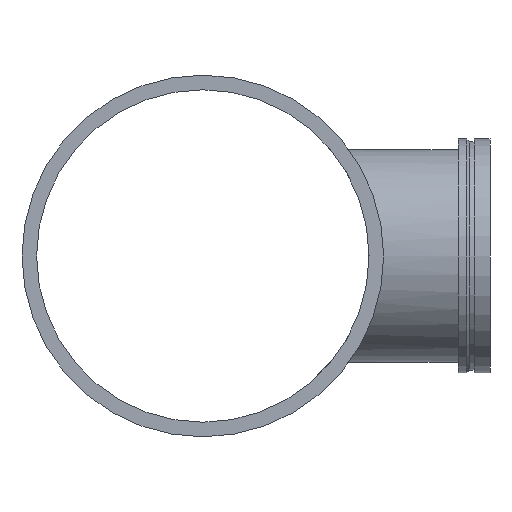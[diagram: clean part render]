
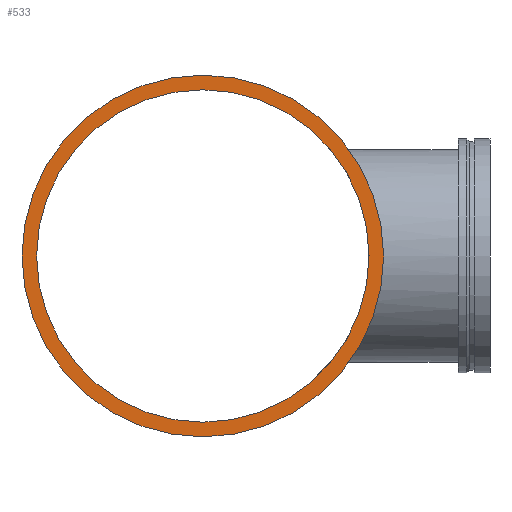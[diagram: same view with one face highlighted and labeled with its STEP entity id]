
A CAD part, left-side view. The second image highlights one B-rep face of the part: STEP entity #533.
In plain terms, the highlighted planar face has unit normal (-1, 0, 0).
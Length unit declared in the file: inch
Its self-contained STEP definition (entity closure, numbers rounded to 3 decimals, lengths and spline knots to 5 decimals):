
#58=FACE_BOUND('',#128,.T.);
#67=PLANE('',#626);
#92=FACE_OUTER_BOUND('',#127,.T.);
#127=EDGE_LOOP('',(#465,#466));
#128=EDGE_LOOP('',(#467,#468));
#151=CIRCLE('',#587,17.);
#152=CIRCLE('',#588,17.);
#175=CIRCLE('',#624,15.625);
#176=CIRCLE('',#625,15.625);
#239=VERTEX_POINT('',#1137);
#240=VERTEX_POINT('',#1139);
#263=VERTEX_POINT('',#1206);
#264=VERTEX_POINT('',#1208);
#299=EDGE_CURVE('',#239,#240,#151,.T.);
#300=EDGE_CURVE('',#240,#239,#152,.T.);
#331=EDGE_CURVE('',#264,#263,#175,.T.);
#332=EDGE_CURVE('',#263,#264,#176,.T.);
#465=ORIENTED_EDGE('',*,*,#300,.F.);
#466=ORIENTED_EDGE('',*,*,#299,.F.);
#467=ORIENTED_EDGE('',*,*,#331,.T.);
#468=ORIENTED_EDGE('',*,*,#332,.T.);
#533=ADVANCED_FACE('',(#92,#58),#67,.T.);
#587=AXIS2_PLACEMENT_3D('',#1140,#716,#717);
#588=AXIS2_PLACEMENT_3D('',#1141,#718,#719);
#624=AXIS2_PLACEMENT_3D('',#1209,#798,#799);
#625=AXIS2_PLACEMENT_3D('',#1210,#800,#801);
#626=AXIS2_PLACEMENT_3D('',#1211,#802,#803);
#716=DIRECTION('center_axis',(1.,0.,0.));
#717=DIRECTION('ref_axis',(0.,0.,1.));
#718=DIRECTION('center_axis',(1.,0.,0.));
#719=DIRECTION('ref_axis',(0.,0.,1.));
#798=DIRECTION('center_axis',(1.,0.,0.));
#799=DIRECTION('ref_axis',(0.,0.,1.));
#800=DIRECTION('center_axis',(1.,0.,0.));
#801=DIRECTION('ref_axis',(0.,0.,1.));
#802=DIRECTION('center_axis',(-1.,0.,0.));
#803=DIRECTION('ref_axis',(0.,0.,-1.));
#1137=CARTESIAN_POINT('',(-29.5,17.,0.));
#1139=CARTESIAN_POINT('',(-29.5,-17.,0.));
#1140=CARTESIAN_POINT('Origin',(-29.5,0.,0.));
#1141=CARTESIAN_POINT('Origin',(-29.5,0.,0.));
#1206=CARTESIAN_POINT('',(-29.5,15.625,0.));
#1208=CARTESIAN_POINT('',(-29.5,-15.625,0.));
#1209=CARTESIAN_POINT('Origin',(-29.5,0.,0.));
#1210=CARTESIAN_POINT('Origin',(-29.5,0.,0.));
#1211=CARTESIAN_POINT('Origin',(-29.5,-17.,0.));
